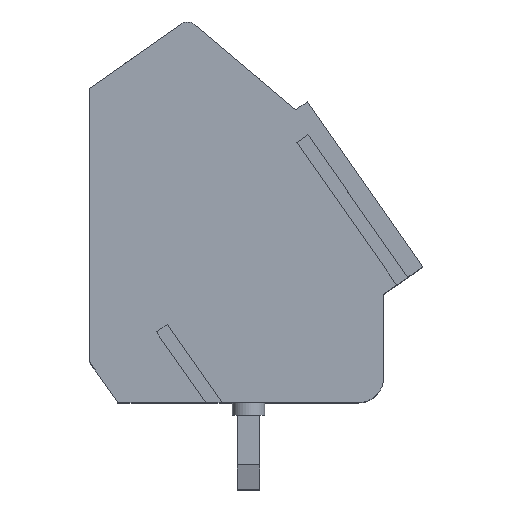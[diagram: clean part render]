
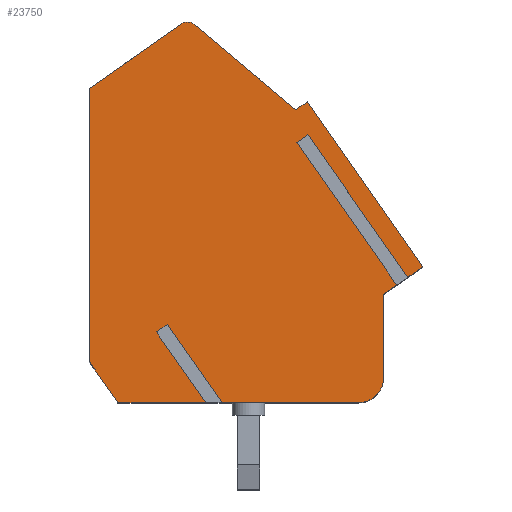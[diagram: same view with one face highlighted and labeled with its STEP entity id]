
A CAD part, top view. The second image highlights one B-rep face of the part: STEP entity #23750.
In plain terms, the highlighted planar face has unit normal (0, 0, 1).
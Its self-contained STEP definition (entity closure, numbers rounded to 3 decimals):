
#750=CARTESIAN_POINT('',(37.58,12.633,
   -7.5));
#760=VERTEX_POINT('',#750);
#790=CARTESIAN_POINT('',(2.613,37.117,
   -7.5));
#800=DIRECTION('',(0.819,-0.574,
   0.));
#810=VECTOR('',#800,1.);
#820=LINE('',#790,#810);
#830=CARTESIAN_POINT('',(37.127,12.95,
   -7.5));
#840=VERTEX_POINT('',#830);
#850=EDGE_CURVE('',#840,#760,#820,.T.);
#4270=CARTESIAN_POINT('',(38.579,18.108,
   -7.5));
#4280=DIRECTION('',(0.,0.,
   1.));
#4290=DIRECTION('',(0.342,-0.94,
   0.));
#4300=AXIS2_PLACEMENT_3D('',#4270,#4280,#4290);
#4310=CIRCLE('',#4300,0.4);
#4320=CARTESIAN_POINT('',(38.955,17.971,
   -7.5));
#4330=VERTEX_POINT('',#4320);
#4340=CARTESIAN_POINT('',(38.809,18.436,
   -7.5));
#4350=VERTEX_POINT('',#4340);
#4360=EDGE_CURVE('',#4330,#4350,#4310,.T.);
#9560=CARTESIAN_POINT('',(24.828,12.325,
   -7.5));
#9570=VERTEX_POINT('',#9560);
#9600=CARTESIAN_POINT('',(20.857,6.654,
   -7.5));
#9610=DIRECTION('',(0.574,0.819,
   0.));
#9620=VECTOR('',#9610,1.);
#9630=LINE('',#9600,#9620);
#9640=CARTESIAN_POINT('',(26.816,15.165,
   -7.5));
#9650=VERTEX_POINT('',#9640);
#9660=EDGE_CURVE('',#9570,#9650,#9630,.T.);
#11020=CARTESIAN_POINT('',(25.053,11.708
   ,-7.5));
#11030=VERTEX_POINT('',#11020);
#11180=CARTESIAN_POINT('',(27.257,14.856
   ,-7.5));
#11190=VERTEX_POINT('',#11180);
#11220=CARTESIAN_POINT('',(21.082,6.037
   ,-7.5));
#11230=DIRECTION('',(-0.574,-0.819,
   0.));
#11240=VECTOR('',#11230,1.);
#11250=LINE('',#11220,#11240);
#11260=EDGE_CURVE('',#11190,#11030,#11250,.T.);
#15280=CARTESIAN_POINT('',(26.93,6.549
   ,-7.5));
#15290=VERTEX_POINT('',#15280);
#15320=CARTESIAN_POINT('',(27.87,6.891
   ,-7.5));
#15330=DIRECTION('',(0.,0.,
   1.));
#15340=DIRECTION('',(0.342,-0.94,
   0.));
#15350=AXIS2_PLACEMENT_3D('',#15320,#15330,#15340);
#15360=CIRCLE('',#15350,1.);
#15370=CARTESIAN_POINT('',(28.212,5.952
   ,-7.5));
#15380=VERTEX_POINT('',#15370);
#15390=EDGE_CURVE('',#15290,#15380,#15360,.T.);
#17020=CARTESIAN_POINT('',(35.909,12.46
   ,-7.5));
#17030=VERTEX_POINT('',#17020);
#17060=CARTESIAN_POINT('',(1.351,36.658
   ,-7.5));
#17070=DIRECTION('',(-0.819,0.574,
   0.));
#17080=VECTOR('',#17070,1.);
#17090=LINE('',#17060,#17080);
#17100=CARTESIAN_POINT('',(36.35,12.151
   ,-7.5));
#17110=VERTEX_POINT('',#17100);
#17120=EDGE_CURVE('',#17110,#17030,#17090,.T.);
#18940=CARTESIAN_POINT('',(31.894,6.726
   ,-7.5));
#18950=VERTEX_POINT('',#18940);
#18980=CARTESIAN_POINT('',(24.615,
   -3.67,-7.5));
#18990=DIRECTION('',(0.574,0.819,
   0.));
#19000=VECTOR('',#18990,1.);
#19010=LINE('',#18980,#19000);
#19020=EDGE_CURVE('',#18950,#17030,#19010,.T.);
#19270=CARTESIAN_POINT('',(32.335,6.417
   ,-7.5));
#19280=VERTEX_POINT('',#19270);
#19380=CARTESIAN_POINT('',(24.84,
   -4.287,-7.5));
#19390=DIRECTION('',(-0.574,-0.819,
   0.));
#19400=VECTOR('',#19390,1.);
#19410=LINE('',#19380,#19400);
#19420=EDGE_CURVE('',#17110,#19280,#19410,.T.);
#21470=CARTESIAN_POINT('',(14.261,41.357
   ,-7.5));
#21480=DIRECTION('',(-0.342,0.94,
   0.));
#21490=VECTOR('',#21480,1.);
#21500=LINE('',#21470,#21490);
#21510=CARTESIAN_POINT('',(23.619,15.647
   ,-7.5));
#21520=VERTEX_POINT('',#21510);
#21530=EDGE_CURVE('',#9570,#21520,#21500,.T.);
#21620=CARTESIAN_POINT('',(14.261,41.357
   ,-7.5));
#21630=DIRECTION('',(-0.342,0.94,
   0.));
#21640=VECTOR('',#21630,1.);
#21650=LINE('',#21620,#21640);
#21660=EDGE_CURVE('',#15290,#11030,#21650,.T.);
#22850=CARTESIAN_POINT('',(0.,
   33.941,-7.5));
#22860=DIRECTION('',(-0.819,0.574,
   0.));
#22870=VECTOR('',#22860,1.);
#22880=LINE('',#22850,#22870);
#22890=EDGE_CURVE('',#11190,#9650,#22880,.T.);
#23050=CARTESIAN_POINT('',(28.537,17.622
   ,-7.5));
#23060=DIRECTION('',(0.,0.,
   1.));
#23070=DIRECTION('',(0.819,-0.574,
   0.));
#23080=AXIS2_PLACEMENT_3D('',#23050,#23060,#23070);
#23090=PLANE('',#23080);
#23100=ORIENTED_EDGE('',*,*,#22890,.F.);
#23110=ORIENTED_EDGE('',*,*,#9660,.T.);
#23120=ORIENTED_EDGE('',*,*,#21530,.F.);
#23130=CARTESIAN_POINT('',(19.648,9.976
   ,-7.5));
#23140=DIRECTION('',(0.574,0.819,
   0.));
#23150=VECTOR('',#23140,1.);
#23160=LINE('',#23130,#23150);
#23170=CARTESIAN_POINT('',(24.766,17.285
   ,-7.5));
#23180=VERTEX_POINT('',#23170);
#23190=EDGE_CURVE('',#21520,#23180,#23160,.T.);
#23200=ORIENTED_EDGE('',*,*,#23190,.F.);
#23210=CARTESIAN_POINT('',(17.898,14.785
   ,-7.5));
#23220=DIRECTION('',(0.94,0.342,
   0.));
#23230=VECTOR('',#23220,1.);
#23240=LINE('',#23210,#23230);
#23250=CARTESIAN_POINT('',(35.087,21.042
   ,-7.5));
#23260=VERTEX_POINT('',#23250);
#23270=EDGE_CURVE('',#23180,#23260,#23240,.T.);
#23280=ORIENTED_EDGE('',*,*,#23270,.F.);
#23290=CARTESIAN_POINT('',(8.874,39.396
   ,-7.5));
#23300=DIRECTION('',(-0.819,0.574,
   0.));
#23310=VECTOR('',#23300,1.);
#23320=LINE('',#23290,#23310);
#23330=EDGE_CURVE('',#4350,#23260,#23320,.T.);
#23340=ORIENTED_EDGE('',*,*,#23330,.T.);
#23350=ORIENTED_EDGE('',*,*,#4360,.T.);
#23360=CARTESIAN_POINT('',(52.537,55.288
   ,-7.5));
#23370=DIRECTION('',(-0.342,-0.94,
   0.));
#23380=VECTOR('',#23370,1.);
#23390=LINE('',#23360,#23380);
#23400=EDGE_CURVE('',#4330,#840,#23390,.T.);
#23410=ORIENTED_EDGE('',*,*,#23400,.F.);
#23420=ORIENTED_EDGE('',*,*,#850,.F.);
#23430=CARTESIAN_POINT('',(25.145,
   -5.126,-7.5));
#23440=DIRECTION('',(-0.574,-0.819,
   0.));
#23450=VECTOR('',#23440,1.);
#23460=LINE('',#23430,#23450);
#23470=CARTESIAN_POINT('',(32.934,5.998
   ,-7.5));
#23480=VERTEX_POINT('',#23470);
#23490=EDGE_CURVE('',#760,#23480,#23460,.T.);
#23500=ORIENTED_EDGE('',*,*,#23490,.F.);
#23510=CARTESIAN_POINT('',(-6.679,
   33.735,-7.5));
#23520=DIRECTION('',(-0.819,0.574,
   0.));
#23530=VECTOR('',#23520,1.);
#23540=LINE('',#23510,#23530);
#23550=EDGE_CURVE('',#23480,#19280,#23540,.T.);
#23560=ORIENTED_EDGE('',*,*,#23550,.F.);
#23570=ORIENTED_EDGE('',*,*,#19420,.T.);
#23580=ORIENTED_EDGE('',*,*,#17120,.F.);
#23590=ORIENTED_EDGE('',*,*,#19020,.T.);
#23600=CARTESIAN_POINT('',(31.362,7.098
   ,-7.5));
#23610=VERTEX_POINT('',#23600);
#23620=EDGE_CURVE('',#18950,#23610,#23540,.T.);
#23630=ORIENTED_EDGE('',*,*,#23620,.F.);
#23640=CARTESIAN_POINT('',(21.943,3.67
   ,-7.5));
#23650=DIRECTION('',(-0.94,-0.342,
   0.));
#23660=VECTOR('',#23650,1.);
#23670=LINE('',#23640,#23660);
#23680=EDGE_CURVE('',#23610,#15380,#23670,.T.);
#23690=ORIENTED_EDGE('',*,*,#23680,.F.);
#23700=ORIENTED_EDGE('',*,*,#15390,.T.);
#23710=ORIENTED_EDGE('',*,*,#21660,.F.);
#23720=ORIENTED_EDGE('',*,*,#11260,.T.);
#23730=EDGE_LOOP('',(#23720,#23710,#23700,#23690,#23630,#23590,#23580,
   #23570,#23560,#23500,#23420,#23410,#23350,#23340,#23280,#23200,#23120
   ,#23110,#23100));
#23740=FACE_OUTER_BOUND('',#23730,.T.);
#23750=ADVANCED_FACE('',(#23740),#23090,.T.);
